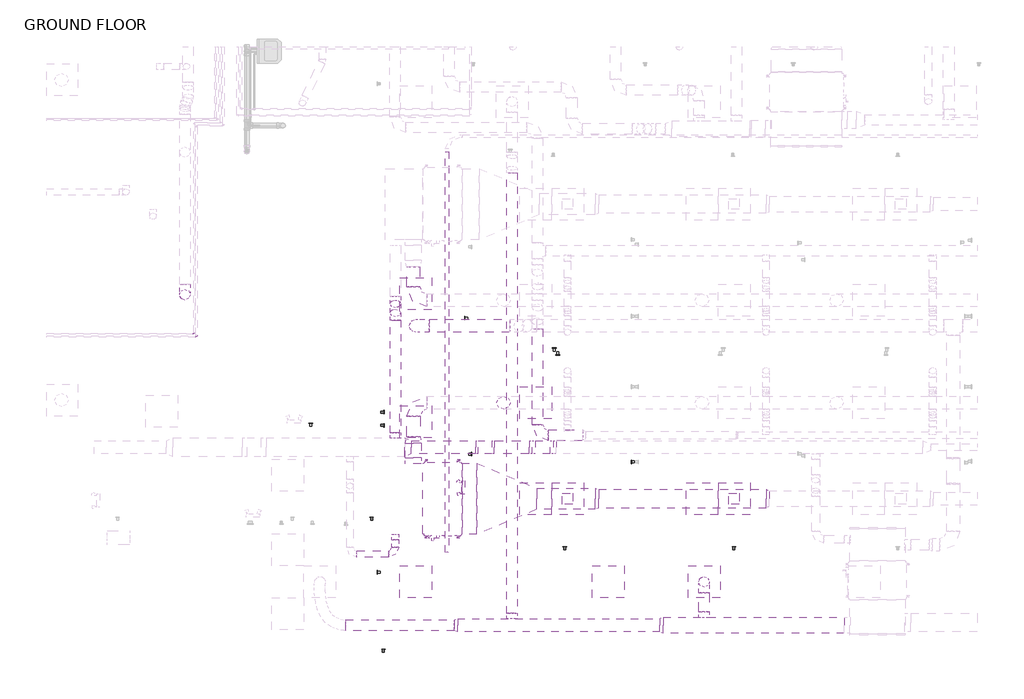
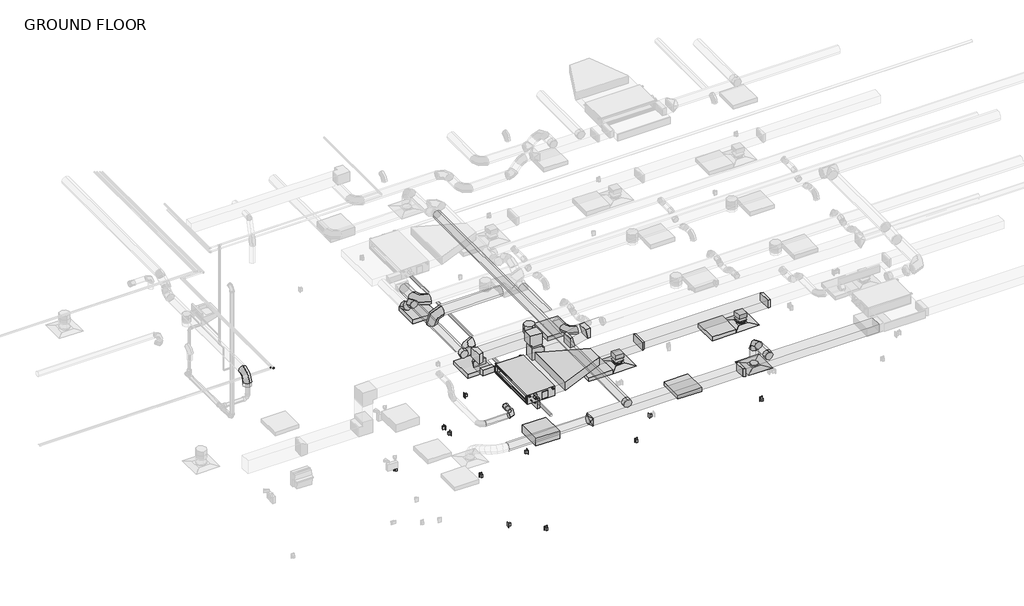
# One storey, part 2 of 22: 30 duct fittings, 27 duct segments, 8 light fixtures, 7 switching devices, 6 proxies, 3 air terminals, 2 pipe fittings, 1 cable carrier segment, 1 electric appliance.
"""IFC4 building model written with IfcOpenShell, lengths in millimetres."""

from ifc_helpers import new_model, si_unit, point, frame, frame_2d, origin, place, context, project, spatial, polyline, circle_curve, trimmed, segment, composite_curve, outline, extrude, transform, mapped, element, save
from components import air_terminal_e9020785, mechanical_equipment_d478180c, duplex_receptacle_countertop_10251bba, rectangular_elbow_mitered_transition_standard_35919474, rectangular_elbow_radius_1_5_w_4707421c, rectangular_takeoff_standard_d07ea574, rectangular_takeoff_standard_fde45e03, rectangular_transition_angle_45_degree_e4fa7590, rectangular_transition_angle_45_degree_1d311e81, rectangular_transition_angle_45_degree_791ae252, rectangular_transition_angle_45_degree_a1440fe9, rectangular_transition_angle_45_degree_05e1d5e5, rectangular_to_round_transition_angle_45_degree_e9430680, rectangular_to_round_transition_angle_45_degree_5a025447, rectangular_to_round_transition_angle_45_degree_789dc1ad, round_elbow_1_d_a253342a, round_elbow_1_d_6fec3262, round_elbow_1_d_c80420c1, round_elbow_1_d_ab3aa7ba, round_takeoff_standard_d3b0d0f9, round_takeoff_standard_fb854549, round_takeoff_standard_c5a1f659, telephone_outlet_data_plain_18c24199, emergency_wall_light_120v_37438f40, troffer_corner_insert_2x2_3_lamp_emergency_29e3a813, troffer_corner_insert_2x2_3lamp_e67c7f8f, elbow_generic_standard_c06ac706, elbow_generic_standard_a088f956

model = new_model("IFC4")

# Units and contexts
model_context = context("Model", 3, world=origin())
ifc_project = project(units=[si_unit("LENGTHUNIT", "METRE", prefix="MILLI")], contexts=[model_context])

# Site, building, storey
site = spatial("IfcSite", under=ifc_project)
building = spatial("IfcBuilding", under=site)
storey = spatial("IfcBuildingStorey", under=building, Name="GROUND FLOOR", Elevation=30480.0)

# Air terminals
placement = place(None, origin())
air_terminal_shape = air_terminal_e9020785(model_context)
element("IfcAirTerminal", 1, ObjectType="Supply Diffuser - Rectangular Face Round Neck - Hosted : 24\"x24\" Face 8\" Neck - Hosted", at=placement, inside=storey, context=model_context, shape_type="MappedRepresentation", body=[
    mapped(air_terminal_shape, transform((-3970.9704607, -4228.1054995, 33223.2), x_axis=(0.0, -1.0, 0.0), y_axis=(-1.0, 0.0, 0.0), z_axis=(0.0, 0.0, -1.0))),
])
element("IfcAirTerminal", 2, ObjectType="Supply Diffuser - Rectangular Face Round Neck - Hosted : 24\"x24\" Face 8\" Neck - Hosted", at=placement, inside=storey, context=model_context, shape_type="MappedRepresentation", body=[
    mapped(air_terminal_shape, transform((-799.1454607, -4228.1054995, 33223.2), x_axis=(0.0, -1.0, 0.0), y_axis=(-1.0, 0.0, 0.0), z_axis=(0.0, 0.0, -1.0))),
])
element("IfcAirTerminal", 3, ObjectType="Supply Diffuser - Rectangular Face Round Neck - Hosted : 24\"x24\" Face 8\" Neck - Hosted", at=placement, inside=storey, context=model_context, shape_type="MappedRepresentation", body=[
    mapped(air_terminal_shape, transform((-1370.6454607, -5809.2554995, 33223.2), x_axis=(0.0, -1.0, 0.0), y_axis=(-1.0, 0.0, 0.0), z_axis=(0.0, 0.0, -1.0))),
])

# Proxies
mechanical_equipment_shape = mechanical_equipment_d478180c(model_context)
element("IfcBuildingElementProxy", 4, Name="PEFY-P-NMAU-E_Medium_Static_Ducted : PEFY-P36NMAU-E", ObjectType="PEFY-P-NMAU-E_Medium_Static_Ducted : PEFY-P36NMAU-E", at=placement, inside=storey, context=model_context, shape_type="MappedRepresentation", body=[
    mapped(mechanical_equipment_shape, transform((-6407.5018914, -4238.1177424, 33458.15), x_axis=(0.0, -1.0, 0.0), y_axis=(1.0, 0.0, 0.0), z_axis=(0.0, 0.0, 1.0))),
])
duplex_receptacle_countertop_shape = duplex_receptacle_countertop_10251bba(model_context)
element("IfcBuildingElementProxy", 5, Name="Duplex Receptacle : Standard", ObjectType="Duplex Receptacle : Standard", at=placement, inside=storey, context=model_context, shape_type="MappedRepresentation", body=[
    mapped(duplex_receptacle_countertop_shape, transform((-5799.7704607, -3377.6052402, 30937.2), x_axis=(0.0, 1.0, 0.0), y_axis=(0.0, 0.0, 1.0), z_axis=(1.0, 0.0, 0.0))),
])
element("IfcBuildingElementProxy", 6, Name="Duplex Receptacle : Standard", ObjectType="Duplex Receptacle : Standard", at=placement, inside=storey, context=model_context, shape_type="MappedRepresentation", body=[
    mapped(duplex_receptacle_countertop_shape, transform((-4158.8399036, -1484.9054995, 30937.2), x_axis=(1.0, 0.0, 0.0), y_axis=(0.0, 0.0, 1.0), z_axis=(0.0, -1.0, 0.0))),
])
element("IfcBuildingElementProxy", 7, Name="Duplex Receptacle : Standard", ObjectType="Duplex Receptacle : Standard", at=placement, inside=storey, context=model_context, shape_type="MappedRepresentation", body=[
    mapped(duplex_receptacle_countertop_shape, transform((-4224.9569269, -1361.0804995, 30937.2), x_axis=(-1.0, 0.0, 0.0), y_axis=(0.0, 0.0, 1.0), z_axis=(0.0, 1.0, 0.0))),
])
element("IfcBuildingElementProxy", 8, Name="Duplex Receptacle : Standard", ObjectType="Duplex Receptacle : Standard", at=placement, inside=storey, context=model_context, shape_type="MappedRepresentation", body=[
    mapped(duplex_receptacle_countertop_shape, transform((-5923.5954607, -788.0218283, 30937.2), x_axis=(0.0, -1.0, 0.0), y_axis=(0.0, 0.0, 1.0), z_axis=(-1.0, 0.0, 0.0))),
])
element("IfcBuildingElementProxy", 9, Name="Duplex Receptacle : Standard", ObjectType="Duplex Receptacle : Standard", at=placement, inside=storey, context=model_context, shape_type="MappedRepresentation", body=[
    mapped(duplex_receptacle_countertop_shape, transform((-7593.6454607, -5626.3898416, 30937.2), x_axis=(0.0, -1.0, 0.0), y_axis=(0.0, 0.0, 1.0), z_axis=(-1.0, 0.0, 0.0))),
])

# Cable carrier segment
element("IfcCableCarrierSegment", 10, ObjectType="Rigid Nonmetallic Conduit (RNC Sch 40)", at=placement, inside=storey, context=model_context, shape_type="SweptSolid", body=[
    extrude(outline(composite_curve([segment(trimmed(circle_curve(frame_2d((33223.2, -6265.5970534)), 30.1625), [point((33223.2, -6295.7595534))], [point((33193.0375, -6265.5970534))], False, "CARTESIAN"), True, "CONTINUOUS"), segment(trimmed(circle_curve(frame_2d((33223.2, -6265.5970534)), 30.1625), [point((33193.0375, -6265.5970534))], [point((33223.2, -6235.4345534))], False, "CARTESIAN"), True, "CONTINUOUS"), segment(trimmed(circle_curve(frame_2d((33223.2, -6265.5970534)), 30.1625), [point((33223.2, -6235.4345534))], [point((33253.3625, -6265.5970534))], False, "CARTESIAN"), True, "CONTINUOUS"), segment(trimmed(circle_curve(frame_2d((33223.2, -6265.5970534)), 30.1625), [point((33253.3625, -6265.5970534))], [point((33223.2, -6295.7595534))], False, "CARTESIAN"), True, "CONTINUOUS")], self_intersect=False)), frame((0.0, -5250.0888338, 0.0), z_axis=(0.0, 1.0, 0.0), x_axis=(0.0, 0.0, 1.0)), (0.0, 0.0, 1.0), 7632.7),
])

# Duct fittings
rectangular_elbow_mitered_transition_standard_shape = rectangular_elbow_mitered_transition_standard_35919474(model_context)
element("IfcDuctFitting", 11, ObjectType="Rectangular Elbow - Mitered - Transition : Standard", at=placement, inside=storey, context=model_context, shape_type="MappedRepresentation", body=[
    mapped(rectangular_elbow_mitered_transition_standard_shape, transform((-5543.944811, -3245.6216457, 33909.0), x_axis=(1.0, 0.0, 0.0), y_axis=(0.0, 0.0, -1.0), z_axis=(0.0, 1.0, 0.0))),
])
element("IfcDuctFitting", 12, ObjectType="Rectangular Elbow - Mitered - Transition : Standard", at=placement, inside=storey, context=model_context, shape_type="MappedRepresentation", body=[
    mapped(rectangular_elbow_mitered_transition_standard_shape, transform((-5543.944811, -3245.6216457, 33502.6), x_axis=(-1.0, 0.0, 0.0), y_axis=(0.0, 0.0, 1.0), z_axis=(0.0, 1.0, 0.0))),
])
rectangular_elbow_radius_1_5_w_shape = rectangular_elbow_radius_1_5_w_4707421c(model_context)
element("IfcDuctFitting", 13, ObjectType="Rectangular Elbow - Radius : 1.5 W", at=placement, inside=storey, context=model_context, shape_type="MappedRepresentation", body=[
    mapped(rectangular_elbow_radius_1_5_w_shape, transform((-4654.944811, -3245.6216457, 33502.6), x_axis=(1.0, 0.0, 0.0), y_axis=(0.0, 0.0, 1.0), z_axis=(0.0, -1.0, 0.0))),
])
element("IfcDuctFitting", 14, ObjectType="Rectangular Elbow - Radius : 1.5 W", at=placement, inside=storey, context=model_context, shape_type="MappedRepresentation", body=[
    mapped(rectangular_elbow_radius_1_5_w_shape, transform((-4228.8077618, -3245.6216457, 33602.867541), x_axis=(-1.0, 0.0, 0.0), y_axis=(0.0, 0.0, -1.0), z_axis=(0.0, -1.0, 0.0))),
])
rectangular_takeoff_standard_shape = rectangular_takeoff_standard_d07ea574(model_context)
element("IfcDuctFitting", 15, ObjectType="Rectangular Takeoff : Standard", at=placement, inside=storey, context=model_context, shape_type="MappedRepresentation", body=[
    mapped(rectangular_takeoff_standard_shape, transform((-799.1454607, -4228.1054995, 33502.6), x_axis=(0.0, 0.0, -1.0), y_axis=(1.0, 0.0, 0.0), z_axis=(0.0, -1.0, 0.0))),
])
element("IfcDuctFitting", 16, ObjectType="Rectangular Takeoff : Standard", at=placement, inside=storey, context=model_context, shape_type="MappedRepresentation", body=[
    mapped(rectangular_takeoff_standard_shape, transform((-3970.9704607, -4228.1054995, 33502.6), x_axis=(0.0, 0.0, -1.0), y_axis=(1.0, 0.0, 0.0), z_axis=(0.0, -1.0, 0.0))),
])
rectangular_takeoff_standard_2_shape = rectangular_takeoff_standard_fde45e03(model_context)
element("IfcDuctFitting", 17, ObjectType="Rectangular Takeoff : Standard", at=placement, inside=storey, context=model_context, shape_type="MappedRepresentation", body=[
    mapped(rectangular_takeoff_standard_2_shape, transform((-6905.278652, -3550.2429995, 33617.69375), x_axis=(0.0, 1.0, 0.0), y_axis=(-1.0, 0.0, 0.0), z_axis=(0.0, 0.0, 1.0))),
])
rectangular_transition_angle_45_degree_shape = rectangular_transition_angle_45_degree_e4fa7590(model_context)
element("IfcDuctFitting", 18, ObjectType="Rectangular Transition - Angle : 45 Degree", at=placement, inside=storey, context=model_context, shape_type="MappedRepresentation", body=[
    mapped(rectangular_transition_angle_45_degree_shape, transform((-6945.302762, -3245.6216457, 33909.0), x_axis=(-1.0, 0.0, 0.0), y_axis=(0.0, -1.0, 0.0), z_axis=(0.0, 0.0, 1.0))),
])
rectangular_transition_angle_45_degree_2_shape = rectangular_transition_angle_45_degree_1d311e81(model_context)
element("IfcDuctFitting", 19, ObjectType="Rectangular Transition - Angle : 45 Degree", at=placement, inside=storey, context=model_context, shape_type="MappedRepresentation", body=[
    mapped(rectangular_transition_angle_45_degree_2_shape, transform((-2152.8792966, -6635.2850038, 33877.25), x_axis=(-1.0, 0.0, 0.0), y_axis=(0.0, -1.0, 0.0), z_axis=(0.0, 0.0, 1.0))),
])
rectangular_transition_angle_45_degree_3_shape = rectangular_transition_angle_45_degree_791ae252(model_context)
element("IfcDuctFitting", 20, ObjectType="Rectangular Transition - Angle : 45 Degree", at=placement, inside=storey, context=model_context, shape_type="MappedRepresentation", body=[
    mapped(rectangular_transition_angle_45_degree_3_shape, transform((-3441.5200089, -4228.1054995, 33604.2), x_axis=(1.0, 0.0, 0.0), y_axis=(0.0, 1.0, 0.0), z_axis=(0.0, 0.0, 1.0))),
])
rectangular_transition_angle_45_degree_4_shape = rectangular_transition_angle_45_degree_a1440fe9(model_context)
element("IfcDuctFitting", 21, ObjectType="Rectangular Transition - Angle : 45 Degree", at=placement, inside=storey, context=model_context, shape_type="MappedRepresentation", body=[
    mapped(rectangular_transition_angle_45_degree_4_shape, transform((-189.5454607, -4228.1054995, 33604.2), x_axis=(1.0, 0.0, 0.0), y_axis=(0.0, 1.0, 0.0), z_axis=(0.0, 0.0, 1.0))),
])
rectangular_transition_angle_45_degree_5_shape = rectangular_transition_angle_45_degree_05e1d5e5(model_context)
element("IfcDuctFitting", 22, ObjectType="Rectangular Transition - Angle : 45 Degree", at=placement, inside=storey, context=model_context, shape_type="MappedRepresentation", body=[
    mapped(rectangular_transition_angle_45_degree_5_shape, transform((-4556.1833638, -4228.1054995, 33604.2), x_axis=(-1.0, 0.0, 0.0), y_axis=(0.0, -1.0, 0.0), z_axis=(0.0, 0.0, 1.0))),
])
rectangular_to_round_transition_angle_45_degree_shape = rectangular_to_round_transition_angle_45_degree_e9430680(model_context)
element("IfcDuctFitting", 23, ObjectType="Rectangular to Round Transition - Angle : 45 Degree", at=placement, inside=storey, context=model_context, shape_type="MappedRepresentation", body=[
    mapped(rectangular_to_round_transition_angle_45_degree_shape, transform((-6064.4792966, -6635.2850038, 33877.25), x_axis=(-1.0, 0.0, 0.0), y_axis=(0.0, -1.0, 0.0), z_axis=(0.0, 0.0, 1.0))),
])
rectangular_to_round_transition_angle_45_degree_2_shape = rectangular_to_round_transition_angle_45_degree_5a025447(model_context)
element("IfcDuctFitting", 24, ObjectType="Rectangular to Round Transition - Angle : 45 Degree", at=placement, inside=storey, context=model_context, shape_type="MappedRepresentation", body=[
    mapped(rectangular_to_round_transition_angle_45_degree_2_shape, transform((-799.1454607, -4228.1054995, 33327.975), x_axis=(0.0, 0.0, -1.0), y_axis=(1.0, 0.0, 0.0), z_axis=(0.0, -1.0, 0.0))),
])
element("IfcDuctFitting", 25, ObjectType="Rectangular to Round Transition - Angle : 45 Degree", at=placement, inside=storey, context=model_context, shape_type="MappedRepresentation", body=[
    mapped(rectangular_to_round_transition_angle_45_degree_2_shape, transform((-3970.9704607, -4228.1054995, 33327.975), x_axis=(0.0, 0.0, -1.0), y_axis=(1.0, 0.0, 0.0), z_axis=(0.0, -1.0, 0.0))),
])
rectangular_to_round_transition_angle_45_degree_3_shape = rectangular_to_round_transition_angle_45_degree_789dc1ad(model_context)
element("IfcDuctFitting", 26, ObjectType="Rectangular to Round Transition - Angle : 45 Degree", at=placement, inside=storey, context=model_context, shape_type="MappedRepresentation", body=[
    mapped(rectangular_to_round_transition_angle_45_degree_3_shape, transform((-6905.278652, -3169.2429995, 33617.69375), x_axis=(0.0, 1.0, 0.0), y_axis=(-1.0, 0.0, 0.0), z_axis=(0.0, 0.0, 1.0))),
])
round_elbow_1_d_shape = round_elbow_1_d_a253342a(model_context)
element("IfcDuctFitting", 27, ObjectType="Round Elbow : 1 D", at=placement, inside=storey, context=model_context, shape_type="MappedRepresentation", body=[
    mapped(round_elbow_1_d_shape, transform((-11256.8513201, -341.9054995, 33121.6), x_axis=(0.0, -1.0, 0.0), y_axis=(0.0, 0.0, -1.0), z_axis=(1.0, 0.0, 0.0))),
])
element("IfcDuctFitting", 28, ObjectType="Round Elbow : 1 D", at=placement, inside=storey, context=model_context, shape_type="MappedRepresentation", body=[
    mapped(round_elbow_1_d_shape, transform((-4541.976464, -3019.0145579, 33528.0), x_axis=(0.0, -1.0, 0.0), y_axis=(1.0, 0.0, 0.0), z_axis=(0.0, 0.0, 1.0))),
])
element("IfcDuctFitting", 29, ObjectType="Round Elbow : 1 D", at=placement, inside=storey, context=model_context, shape_type="MappedRepresentation", body=[
    mapped(round_elbow_1_d_shape, transform((-1370.6454607, -5809.2554995, 33877.25), x_axis=(0.0, 0.0, 1.0), y_axis=(0.0, -1.0, 0.0), z_axis=(1.0, 0.0, 0.0))),
])
round_elbow_1_d_2_shape = round_elbow_1_d_6fec3262(model_context)
element("IfcDuctFitting", 30, ObjectType="Round Elbow : 1 D", at=placement, inside=storey, context=model_context, shape_type="MappedRepresentation", body=[
    mapped(round_elbow_1_d_2_shape, transform((-6857.0454607, -932.4554995, 33578.8), x_axis=(0.0, 0.0, 1.0), y_axis=(1.0, 0.0, 0.0), z_axis=(0.0, 1.0, 0.0))),
])
element("IfcDuctFitting", 31, ObjectType="Round Elbow : 1 D", at=placement, inside=storey, context=model_context, shape_type="MappedRepresentation", body=[
    mapped(round_elbow_1_d_2_shape, transform((-6905.278652, -2399.3054995, 33617.69375), x_axis=(-1.0, 0.0, 0.0), y_axis=(0.0, -1.0, 0.0), z_axis=(0.0, 0.0, 1.0))),
])
element("IfcDuctFitting", 32, ObjectType="Round Elbow : 1 D", at=placement, inside=storey, context=model_context, shape_type="MappedRepresentation", body=[
    mapped(round_elbow_1_d_2_shape, transform((-6907.4143044, -446.6804995, 33617.69375), x_axis=(0.0, -1.0, 0.0), y_axis=(1.0, 0.0, 0.0), z_axis=(0.0, 0.0, 1.0))),
])
round_elbow_1_d_3_shape = round_elbow_1_d_c80420c1(model_context)
element("IfcDuctFitting", 33, ObjectType="Round Elbow : 1 D", at=placement, inside=storey, context=model_context, shape_type="MappedRepresentation", body=[
    mapped(round_elbow_1_d_3_shape, transform((-7251.3950198, -5277.6216457, 33617.69375), x_axis=(1.0, 0.0, 0.0), y_axis=(0.0, 1.0, 0.0), z_axis=(0.0, 0.0, 1.0))),
])
round_elbow_1_d_4_shape = round_elbow_1_d_ab3aa7ba(model_context)
element("IfcDuctFitting", 34, ObjectType="Round Elbow : 1 D", at=placement, inside=storey, context=model_context, shape_type="MappedRepresentation", body=[
    mapped(round_elbow_1_d_4_shape, transform((-7247.6134283, -456.5972917, 33617.69375), x_axis=(0.0, -1.0, 0.0), y_axis=(0.0, 0.0, 1.0), z_axis=(-1.0, 0.0, 0.0))),
])
element("IfcDuctFitting", 35, ObjectType="Round Elbow : 1 D", at=placement, inside=storey, context=model_context, shape_type="MappedRepresentation", body=[
    mapped(round_elbow_1_d_4_shape, transform((-7247.6134283, -747.9035417, 33909.0), x_axis=(0.0, -0.7071067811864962, 0.7071067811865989), y_axis=(0.0, -0.7071067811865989, -0.7071067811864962), z_axis=(1.0, 0.0, 0.0))),
])
round_takeoff_standard_shape = round_takeoff_standard_d3b0d0f9(model_context)
element("IfcDuctFitting", 36, ObjectType="Round Takeoff : Standard", at=placement, inside=storey, context=model_context, shape_type="MappedRepresentation", body=[
    mapped(round_takeoff_standard_shape, transform((-7247.6134283, -3067.8216457, 33909.0), x_axis=(0.0, 1.0, 0.0), y_axis=(1.0, 0.0, 0.0), z_axis=(0.0, 0.0, -1.0))),
])
element("IfcDuctFitting", 37, ObjectType="Round Takeoff : Standard", at=placement, inside=storey, context=model_context, shape_type="MappedRepresentation", body=[
    mapped(round_takeoff_standard_shape, transform((-1370.6454607, -6482.8850038, 33877.25), x_axis=(0.0, 1.0, 0.0), y_axis=(1.0, 0.0, 0.0), z_axis=(0.0, 0.0, -1.0))),
])
element("IfcDuctFitting", 38, ObjectType="Round Takeoff : Standard", at=placement, inside=storey, context=model_context, shape_type="MappedRepresentation", body=[
    mapped(round_takeoff_standard_shape, transform((-5028.2454607, -6508.2850038, 33877.25), x_axis=(0.0, 1.0, 0.0), y_axis=(1.0, 0.0, 0.0), z_axis=(0.0, 0.0, -1.0))),
])
round_takeoff_standard_2_shape = round_takeoff_standard_fb854549(model_context)
element("IfcDuctFitting", 39, ObjectType="Round Takeoff : Standard", at=placement, inside=storey, context=model_context, shape_type="MappedRepresentation", body=[
    mapped(round_takeoff_standard_2_shape, transform((-7251.3950198, -4905.9679995, 33617.69375), x_axis=(0.0, -1.0, 0.0), y_axis=(-1.0, 0.0, 0.0), z_axis=(0.0, 0.0, -1.0))),
])
round_takeoff_standard_3_shape = round_takeoff_standard_c5a1f659(model_context)
element("IfcDuctFitting", 40, ObjectType="Round Takeoff : Standard", at=placement, inside=storey, context=model_context, shape_type="MappedRepresentation", body=[
    mapped(round_takeoff_standard_3_shape, transform((-5190.1704607, -2399.3054995, 33490.69375), x_axis=(0.0, 0.0, -1.0), y_axis=(-1.0, 0.0, 0.0), z_axis=(0.0, 1.0, 0.0))),
])

# Duct segments
element("IfcDuctSegment", 41, ObjectType="Mitered Elbows / Taps", at=placement, inside=storey, context=model_context, shape_type="SweptSolid", body=[
    extrude(outline(polyline([(1301.5207034, -6482.8850038), (1301.5207034, -6787.6850038), (-2152.8792966, -6787.6850038), (-2152.8792966, -6482.8850038), (1301.5207034, -6482.8850038)])), frame((0.0, 0.0, 33775.65), z_axis=(0.0, 0.0, 1.0), x_axis=(1.0, 0.0, 0.0)), (0.0, 0.0, 1.0), 203.2),
])
element("IfcDuctSegment", 42, ObjectType="Mitered Elbows / Taps", at=placement, inside=storey, context=model_context, shape_type="SweptSolid", body=[
    extrude(outline(polyline([(-2214.200321, -6508.2850038), (-2214.200321, -6762.2850038), (-6064.4792966, -6762.2850038), (-6064.4792966, -6508.2850038), (-2214.200321, -6508.2850038)])), frame((0.0, 0.0, 33775.65), z_axis=(0.0, 0.0, 1.0), x_axis=(1.0, 0.0, 0.0)), (0.0, 0.0, 1.0), 203.2),
])
element("IfcDuctSegment", 43, ObjectType="Mitered Elbows / Taps", at=placement, inside=storey, context=model_context, shape_type="SweptSolid", body=[
    extrude(outline(polyline([(-3380.1989844, -4405.9054995), (-3380.1989844, -4050.3054995), (-189.5454607, -4050.3054995), (-189.5454607, -4405.9054995), (-3380.1989844, -4405.9054995)])), frame((0.0, 0.0, 33502.6), z_axis=(0.0, 0.0, 1.0), x_axis=(1.0, 0.0, 0.0)), (0.0, 0.0, 1.0), 203.2),
])
element("IfcDuctSegment", 44, ObjectType="Mitered Elbows / Taps", at=placement, inside=storey, context=model_context, shape_type="SweptSolid", body=[
    extrude(outline(polyline([(-5978.8768914, -4905.9679995), (-5978.8768914, -3550.2429995), (-5702.1200089, -3550.2429995), (-5702.1200089, -4905.9679995), (-5978.8768914, -4905.9679995)])), frame((0.0, 0.0, 33501.0125), z_axis=(0.0, 0.0, 1.0), x_axis=(1.0, 0.0, 0.0)), (0.0, 0.0, 1.0), 206.375),
])
element("IfcDuctSegment", 45, ObjectType="Mitered Elbows / Taps", at=placement, inside=storey, context=model_context, shape_type="SweptSolid", body=[
    extrude(outline(polyline([(-3441.5200089, -4024.9054995), (-3441.5200089, -4431.3054995), (-4556.1833638, -4431.3054995), (-4556.1833638, -4024.9054995), (-3441.5200089, -4024.9054995)])), frame((0.0, 0.0, 33502.6), z_axis=(0.0, 0.0, 1.0), x_axis=(1.0, 0.0, 0.0)), (0.0, 0.0, 1.0), 203.2),
])
element("IfcDuctSegment", 46, ObjectType="Mitered Elbows / Taps", at=placement, inside=storey, context=model_context, shape_type="SweptSolid", body=[
    extrude(outline(polyline([(-900.7454607, -4126.5054995), (-697.5454607, -4126.5054995), (-697.5454607, -4329.7054995), (-900.7454607, -4329.7054995), (-900.7454607, -4126.5054995)])), frame((0.0, 0.0, 33327.975), z_axis=(0.0, 0.0, 1.0), x_axis=(1.0, 0.0, 0.0)), (0.0, 0.0, 1.0), 73.025),
])
element("IfcDuctSegment", 47, ObjectType="Mitered Elbows / Taps", at=placement, inside=storey, context=model_context, shape_type="SweptSolid", body=[
    extrude(outline(polyline([(-4072.5704607, -4126.5054995), (-3869.3704607, -4126.5054995), (-3869.3704607, -4329.7054995), (-4072.5704607, -4329.7054995), (-4072.5704607, -4126.5054995)])), frame((0.0, 0.0, 33327.975), z_axis=(0.0, 0.0, 1.0), x_axis=(1.0, 0.0, 0.0)), (0.0, 0.0, 1.0), 73.025),
])
element("IfcDuctSegment", 48, ObjectType="Mitered Elbows / Taps", at=placement, inside=storey, context=model_context, shape_type="SweptSolid", body=[
    extrude(outline(polyline([(-6752.878652, -3448.6429995), (-7057.678652, -3448.6429995), (-7057.678652, -3169.2429995), (-6752.878652, -3169.2429995), (-6752.878652, -3448.6429995)])), frame((0.0, 0.0, 33541.49375), z_axis=(0.0, 0.0, 1.0), x_axis=(1.0, 0.0, 0.0)), (0.0, 0.0, 1.0), 152.4),
])
element("IfcDuctSegment", 49, ObjectType="Mitered Elbows / Taps", at=placement, inside=storey, context=model_context, shape_type="SweptSolid", body=[
    extrude(outline(polyline([(-5416.944811, -3372.6216457), (-5670.944811, -3372.6216457), (-5670.944811, -3118.6216457), (-5416.944811, -3118.6216457), (-5416.944811, -3372.6216457)])), frame((0.0, 0.0, 33680.4), z_axis=(0.0, 0.0, 1.0), x_axis=(1.0, 0.0, 0.0)), (0.0, 0.0, 1.0), 50.8),
])
element("IfcDuctSegment", 50, ObjectType="Mitered Elbows / Taps", at=placement, inside=storey, context=model_context, shape_type="SweptSolid", body=[
    extrude(outline(polyline([(-5721.744811, -3118.6216457), (-5721.744811, -3372.6216457), (-6945.302762, -3372.6216457), (-6945.302762, -3118.6216457), (-5721.744811, -3118.6216457)])), frame((0.0, 0.0, 33782.0), z_axis=(0.0, 0.0, 1.0), x_axis=(1.0, 0.0, 0.0)), (0.0, 0.0, 1.0), 254.0),
])
element("IfcDuctSegment", 51, ObjectType="Radius Elbows / Taps", at=placement, inside=storey, context=model_context, shape_type="SweptSolid", body=[
    extrude(outline(polyline([(-5366.144811, -3372.6216457), (-5366.144811, -3118.6216457), (-4699.164547, -3118.6216457), (-4699.164547, -3372.6216457), (-5366.144811, -3372.6216457)])), frame((0.0, 0.0, 33375.6), z_axis=(0.0, 0.0, 1.0), x_axis=(1.0, 0.0, 0.0)), (0.0, 0.0, 1.0), 254.0),
])
element("IfcDuctSegment", 52, ObjectType="Radius Elbows / Taps", at=placement, inside=storey, context=model_context, shape_type="SweptSolid", body=[
    extrude(outline(polyline([(0.0, -254.0), (0.0, 0.0), (349.3348585, 0.0), (349.3348585, -254.0), (0.0, -254.0)])), frame((-4582.8125654, -3118.6216457, 33389.1040785), z_axis=(-0.22903933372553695, 0.0, 0.9734171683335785), x_axis=(0.9734171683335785, 0.0, 0.22903933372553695)), (0.0, 0.0, 1.0), 254.0),
])
element("IfcDuctSegment", 53, ObjectType="Taps / Short Radius", at=placement, inside=storey, context=model_context, shape_type="SweptSolid", body=[
    extrude(outline(composite_curve([segment(trimmed(circle_curve(frame_2d((-6635.2850038, 33877.25)), 101.6), [point((-6533.6850038, 33877.25))], [point((-6635.2850038, 33775.65))], False, "CARTESIAN"), True, "CONTINUOUS"), segment(trimmed(circle_curve(frame_2d((-6635.2850038, 33877.25)), 101.6), [point((-6635.2850038, 33775.65))], [point((-6736.8850038, 33877.25))], False, "CARTESIAN"), True, "CONTINUOUS"), segment(trimmed(circle_curve(frame_2d((-6635.2850038, 33877.25)), 101.6), [point((-6736.8850038, 33877.25))], [point((-6635.2850038, 33978.85))], False, "CARTESIAN"), True, "CONTINUOUS"), segment(trimmed(circle_curve(frame_2d((-6635.2850038, 33877.25)), 101.6), [point((-6635.2850038, 33978.85))], [point((-6533.6850038, 33877.25))], False, "CARTESIAN"), True, "CONTINUOUS")], self_intersect=False)), frame((-8198.0792966, 0.0, 0.0), z_axis=(1.0, 0.0, 0.0), x_axis=(0.0, 1.0, 0.0)), (0.0, 0.0, 1.0), 2072.2789755),
])
element("IfcDuctSegment", 54, ObjectType="Taps / Short Radius", at=placement, inside=storey, context=model_context, shape_type="SweptSolid", body=[
    extrude(outline(composite_curve([segment(trimmed(circle_curve(frame_2d((-11256.8513201, -341.9054995)), 101.6), [point((-11155.2513201, -341.9054995))], [point((-11256.8513201, -443.5054995))], False, "CARTESIAN"), True, "CONTINUOUS"), segment(trimmed(circle_curve(frame_2d((-11256.8513201, -341.9054995)), 101.6), [point((-11256.8513201, -443.5054995))], [point((-11358.4513201, -341.9054995))], False, "CARTESIAN"), True, "CONTINUOUS"), segment(trimmed(circle_curve(frame_2d((-11256.8513201, -341.9054995)), 101.6), [point((-11358.4513201, -341.9054995))], [point((-11256.8513201, -240.3054995))], False, "CARTESIAN"), True, "CONTINUOUS"), segment(trimmed(circle_curve(frame_2d((-11256.8513201, -341.9054995)), 101.6), [point((-11256.8513201, -240.3054995))], [point((-11155.2513201, -341.9054995))], False, "CARTESIAN"), True, "CONTINUOUS")], self_intersect=False)), frame((0.0, 0.0, 32816.8), z_axis=(0.0, 0.0, 1.0), x_axis=(1.0, 0.0, 0.0)), (0.0, 0.0, 1.0), 101.6),
])
element("IfcDuctSegment", 55, ObjectType="Taps / Short Radius", at=placement, inside=storey, context=model_context, shape_type="SweptSolid", body=[
    extrude(outline(composite_curve([segment(trimmed(circle_curve(frame_2d((-932.4554995, 33578.8)), 127.0), [point((-805.4554995, 33578.8))], [point((-932.4554995, 33451.8))], False, "CARTESIAN"), True, "CONTINUOUS"), segment(trimmed(circle_curve(frame_2d((-932.4554995, 33578.8)), 127.0), [point((-932.4554995, 33451.8))], [point((-1059.4554995, 33578.8))], False, "CARTESIAN"), True, "CONTINUOUS"), segment(trimmed(circle_curve(frame_2d((-932.4554995, 33578.8)), 127.0), [point((-1059.4554995, 33578.8))], [point((-932.4554995, 33705.8))], False, "CARTESIAN"), True, "CONTINUOUS"), segment(trimmed(circle_curve(frame_2d((-932.4554995, 33578.8)), 127.0), [point((-932.4554995, 33705.8))], [point((-805.4554995, 33578.8))], False, "CARTESIAN"), True, "CONTINUOUS")], self_intersect=False)), frame((-6603.0454607, 0.0, 0.0), z_axis=(1.0, 0.0, 0.0), x_axis=(0.0, 1.0, 0.0)), (0.0, 0.0, 1.0), 1528.2153568),
])
element("IfcDuctSegment", 56, ObjectType="Taps / Short Radius", at=placement, inside=storey, context=model_context, shape_type="SweptSolid", body=[
    extrude(outline(composite_curve([segment(trimmed(circle_curve(frame_2d((33617.69375, -6905.278652)), 127.0), [point((33617.69375, -6778.278652))], [point((33744.69375, -6905.278652))], False, "CARTESIAN"), True, "CONTINUOUS"), segment(trimmed(circle_curve(frame_2d((33617.69375, -6905.278652)), 127.0), [point((33744.69375, -6905.278652))], [point((33617.69375, -7032.278652))], False, "CARTESIAN"), True, "CONTINUOUS"), segment(trimmed(circle_curve(frame_2d((33617.69375, -6905.278652)), 127.0), [point((33617.69375, -7032.278652))], [point((33490.69375, -6905.278652))], False, "CARTESIAN"), True, "CONTINUOUS"), segment(trimmed(circle_curve(frame_2d((33617.69375, -6905.278652)), 127.0), [point((33490.69375, -6905.278652))], [point((33617.69375, -6778.278652))], False, "CARTESIAN"), True, "CONTINUOUS")], self_intersect=False)), frame((0.0, -3046.6009505, 0.0), z_axis=(0.0, 1.0, 0.0), x_axis=(0.0, 0.0, 1.0)), (0.0, 0.0, 1.0), 393.295451),
])
element("IfcDuctSegment", 57, ObjectType="Taps / Short Radius", at=placement, inside=storey, context=model_context, shape_type="SweptSolid", body=[
    extrude(outline(composite_curve([segment(trimmed(circle_curve(frame_2d((-5190.1704607, -2399.3054995)), 127.0), [point((-5317.1704607, -2399.3054995))], [point((-5190.1704607, -2272.3054995))], False, "CARTESIAN"), True, "CONTINUOUS"), segment(trimmed(circle_curve(frame_2d((-5190.1704607, -2399.3054995)), 127.0), [point((-5190.1704607, -2272.3054995))], [point((-5063.1704607, -2399.3054995))], False, "CARTESIAN"), True, "CONTINUOUS"), segment(trimmed(circle_curve(frame_2d((-5190.1704607, -2399.3054995)), 127.0), [point((-5063.1704607, -2399.3054995))], [point((-5190.1704607, -2526.3054995))], False, "CARTESIAN"), True, "CONTINUOUS"), segment(trimmed(circle_curve(frame_2d((-5190.1704607, -2399.3054995)), 127.0), [point((-5190.1704607, -2526.3054995))], [point((-5317.1704607, -2399.3054995))], False, "CARTESIAN"), True, "CONTINUOUS")], self_intersect=False)), frame((0.0, 0.0, 33324.8), z_axis=(0.0, 0.0, 1.0), x_axis=(1.0, 0.0, 0.0)), (0.0, 0.0, 1.0), 64.29375),
])
element("IfcDuctSegment", 58, ObjectType="Taps / Short Radius", at=placement, inside=storey, context=model_context, shape_type="SweptSolid", body=[
    extrude(outline(composite_curve([segment(trimmed(circle_curve(frame_2d((33617.69375, -6907.4143044)), 127.0), [point((33617.69375, -7034.4143044))], [point((33490.69375, -6907.4143044))], False, "CARTESIAN"), True, "CONTINUOUS"), segment(trimmed(circle_curve(frame_2d((33617.69375, -6907.4143044)), 127.0), [point((33490.69375, -6907.4143044))], [point((33617.69375, -6780.4143044))], False, "CARTESIAN"), True, "CONTINUOUS"), segment(trimmed(circle_curve(frame_2d((33617.69375, -6907.4143044)), 127.0), [point((33617.69375, -6780.4143044))], [point((33744.69375, -6907.4143044))], False, "CARTESIAN"), True, "CONTINUOUS"), segment(trimmed(circle_curve(frame_2d((33617.69375, -6907.4143044)), 127.0), [point((33744.69375, -6907.4143044))], [point((33617.69375, -7034.4143044))], False, "CARTESIAN"), True, "CONTINUOUS")], self_intersect=False)), frame((0.0, -192.6804995, 0.0), z_axis=(0.0, 1.0, 0.0), x_axis=(0.0, 0.0, 1.0)), (0.0, 0.0, 1.0), 385.357951),
])
element("IfcDuctSegment", 59, ObjectType="Taps / Short Radius", at=placement, inside=storey, context=model_context, shape_type="SweptSolid", body=[
    extrude(outline(composite_curve([segment(trimmed(circle_curve(frame_2d((0.0, 101.6)), 101.6), [point((-101.6, 101.6))], [point((0.0, 203.2))], False, "CARTESIAN"), True, "CONTINUOUS"), segment(trimmed(circle_curve(frame_2d((0.0, 101.6)), 101.6), [point((0.0, 203.2))], [point((101.6, 101.6))], False, "CARTESIAN"), True, "CONTINUOUS"), segment(trimmed(circle_curve(frame_2d((0.0, 101.6)), 101.6), [point((101.6, 101.6))], [point((0.0, 0.0))], False, "CARTESIAN"), True, "CONTINUOUS"), segment(trimmed(circle_curve(frame_2d((0.0, 101.6)), 101.6), [point((0.0, 0.0))], [point((-101.6, 101.6))], False, "CARTESIAN"), True, "CONTINUOUS")], self_intersect=False)), frame((-7247.6134283, -587.9552428, 33605.3676031), z_axis=(0.0, -0.7071067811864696, 0.7071067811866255), x_axis=(1.0, 0.0, 0.0)), (0.0, 0.0, 1.0), 243.6328578),
])
element("IfcDuctSegment", 60, ObjectType="Taps / Short Radius", at=placement, inside=storey, context=model_context, shape_type="SweptSolid", body=[
    extrude(outline(composite_curve([segment(trimmed(circle_curve(frame_2d((33909.0, -7247.6134283)), 101.6), [point((33909.0, -7146.0134283))], [point((34010.6, -7247.6134283))], False, "CARTESIAN"), True, "CONTINUOUS"), segment(trimmed(circle_curve(frame_2d((33909.0, -7247.6134283)), 101.6), [point((34010.6, -7247.6134283))], [point((33909.0, -7349.2134283))], False, "CARTESIAN"), True, "CONTINUOUS"), segment(trimmed(circle_curve(frame_2d((33909.0, -7247.6134283)), 101.6), [point((33909.0, -7349.2134283))], [point((33807.4, -7247.6134283))], False, "CARTESIAN"), True, "CONTINUOUS"), segment(trimmed(circle_curve(frame_2d((33909.0, -7247.6134283)), 101.6), [point((33807.4, -7247.6134283))], [point((33909.0, -7146.0134283))], False, "CARTESIAN"), True, "CONTINUOUS")], self_intersect=False)), frame((0.0, -2966.2216457, 0.0), z_axis=(0.0, 1.0, 0.0), x_axis=(0.0, 0.0, 1.0)), (0.0, 0.0, 1.0), 2134.1499081),
])
element("IfcDuctSegment", 61, ObjectType="Taps / Short Radius", at=placement, inside=storey, context=model_context, shape_type="SweptSolid", body=[
    extrude(outline(composite_curve([segment(trimmed(circle_curve(frame_2d((-3019.0145579, 33528.0)), 101.6), [point((-2917.4145579, 33528.0))], [point((-3019.0145579, 33426.4))], False, "CARTESIAN"), True, "CONTINUOUS"), segment(trimmed(circle_curve(frame_2d((-3019.0145579, 33528.0)), 101.6), [point((-3019.0145579, 33426.4))], [point((-3120.6145579, 33528.0))], False, "CARTESIAN"), True, "CONTINUOUS"), segment(trimmed(circle_curve(frame_2d((-3019.0145579, 33528.0)), 101.6), [point((-3120.6145579, 33528.0))], [point((-3019.0145579, 33629.6))], False, "CARTESIAN"), True, "CONTINUOUS"), segment(trimmed(circle_curve(frame_2d((-3019.0145579, 33528.0)), 101.6), [point((-3019.0145579, 33629.6))], [point((-2917.4145579, 33528.0))], False, "CARTESIAN"), True, "CONTINUOUS")], self_intersect=False)), frame((-4338.776464, 0.0, 0.0), z_axis=(1.0, 0.0, 0.0), x_axis=(0.0, 1.0, 0.0)), (0.0, 0.0, 1.0), 656.8980542),
])
element("IfcDuctSegment", 62, ObjectType="Taps / Short Radius", at=placement, inside=storey, context=model_context, shape_type="SweptSolid", body=[
    extrude(outline(composite_curve([segment(trimmed(circle_curve(frame_2d((33528.0, -4541.976464)), 101.6), [point((33528.0, -4440.376464))], [point((33629.6, -4541.976464))], False, "CARTESIAN"), True, "CONTINUOUS"), segment(trimmed(circle_curve(frame_2d((33528.0, -4541.976464)), 101.6), [point((33629.6, -4541.976464))], [point((33528.0, -4643.576464))], False, "CARTESIAN"), True, "CONTINUOUS"), segment(trimmed(circle_curve(frame_2d((33528.0, -4541.976464)), 101.6), [point((33528.0, -4643.576464))], [point((33426.4, -4541.976464))], False, "CARTESIAN"), True, "CONTINUOUS"), segment(trimmed(circle_curve(frame_2d((33528.0, -4541.976464)), 101.6), [point((33426.4, -4541.976464))], [point((33528.0, -4440.376464))], False, "CARTESIAN"), True, "CONTINUOUS")], self_intersect=False)), frame((0.0, -2815.8145579, 0.0), z_axis=(0.0, 1.0, 0.0), x_axis=(0.0, 0.0, 1.0)), (0.0, 0.0, 1.0), 1821.8232036),
])
element("IfcDuctSegment", 63, ObjectType="Taps / Short Radius", at=placement, inside=storey, context=model_context, shape_type="SweptSolid", body=[
    extrude(outline(composite_curve([segment(trimmed(circle_curve(frame_2d((33877.25, -5028.2454607)), 101.6), [point((33877.25, -5129.8454607))], [point((33775.65, -5028.2454607))], False, "CARTESIAN"), True, "CONTINUOUS"), segment(trimmed(circle_curve(frame_2d((33877.25, -5028.2454607)), 101.6), [point((33775.65, -5028.2454607))], [point((33877.25, -4926.6454607))], False, "CARTESIAN"), True, "CONTINUOUS"), segment(trimmed(circle_curve(frame_2d((33877.25, -5028.2454607)), 101.6), [point((33877.25, -4926.6454607))], [point((33978.85, -5028.2454607))], False, "CARTESIAN"), True, "CONTINUOUS"), segment(trimmed(circle_curve(frame_2d((33877.25, -5028.2454607)), 101.6), [point((33978.85, -5028.2454607))], [point((33877.25, -5129.8454607))], False, "CARTESIAN"), True, "CONTINUOUS")], self_intersect=False)), frame((0.0, -6406.6850038, 0.0), z_axis=(0.0, 1.0, 0.0), x_axis=(0.0, 0.0, 1.0)), (0.0, 0.0, 1.0), 8389.3197895),
])
element("IfcDuctSegment", 64, ObjectType="Taps / Short Radius", at=placement, inside=storey, context=model_context, shape_type="SweptSolid", body=[
    extrude(outline(composite_curve([segment(trimmed(circle_curve(frame_2d((33877.25, -1370.6454607)), 101.6), [point((33877.25, -1472.2454607))], [point((33775.65, -1370.6454607))], False, "CARTESIAN"), True, "CONTINUOUS"), segment(trimmed(circle_curve(frame_2d((33877.25, -1370.6454607)), 101.6), [point((33775.65, -1370.6454607))], [point((33877.25, -1269.0454607))], False, "CARTESIAN"), True, "CONTINUOUS"), segment(trimmed(circle_curve(frame_2d((33877.25, -1370.6454607)), 101.6), [point((33877.25, -1269.0454607))], [point((33978.85, -1370.6454607))], False, "CARTESIAN"), True, "CONTINUOUS"), segment(trimmed(circle_curve(frame_2d((33877.25, -1370.6454607)), 101.6), [point((33978.85, -1370.6454607))], [point((33877.25, -1472.2454607))], False, "CARTESIAN"), True, "CONTINUOUS")], self_intersect=False)), frame((0.0, -6381.2850038, 0.0), z_axis=(0.0, 1.0, 0.0), x_axis=(0.0, 0.0, 1.0)), (0.0, 0.0, 1.0), 368.8295043),
])
element("IfcDuctSegment", 65, ObjectType="Taps / Short Radius", at=placement, inside=storey, context=model_context, shape_type="SweptSolid", body=[
    extrude(outline(composite_curve([segment(trimmed(circle_curve(frame_2d((-1370.6454607, -5809.2554995)), 101.6), [point((-1472.2454607, -5809.2554995))], [point((-1370.6454607, -5707.6554995))], False, "CARTESIAN"), True, "CONTINUOUS"), segment(trimmed(circle_curve(frame_2d((-1370.6454607, -5809.2554995)), 101.6), [point((-1370.6454607, -5707.6554995))], [point((-1269.0454607, -5809.2554995))], False, "CARTESIAN"), True, "CONTINUOUS"), segment(trimmed(circle_curve(frame_2d((-1370.6454607, -5809.2554995)), 101.6), [point((-1269.0454607, -5809.2554995))], [point((-1370.6454607, -5910.8554995))], False, "CARTESIAN"), True, "CONTINUOUS"), segment(trimmed(circle_curve(frame_2d((-1370.6454607, -5809.2554995)), 101.6), [point((-1370.6454607, -5910.8554995))], [point((-1472.2454607, -5809.2554995))], False, "CARTESIAN"), True, "CONTINUOUS")], self_intersect=False)), frame((0.0, 0.0, 33277.175), z_axis=(0.0, 0.0, 1.0), x_axis=(1.0, 0.0, 0.0)), (0.0, 0.0, 1.0), 396.875),
])
element("IfcDuctSegment", 66, ObjectType="Taps / Short Radius", at=placement, inside=storey, context=model_context, shape_type="SweptSolid", body=[
    extrude(outline(composite_curve([segment(trimmed(circle_curve(frame_2d((-5277.6216457, 33617.69375)), 63.5), [point((-5341.1216457, 33617.69375))], [point((-5277.6216457, 33681.19375))], False, "CARTESIAN"), True, "CONTINUOUS"), segment(trimmed(circle_curve(frame_2d((-5277.6216457, 33617.69375)), 63.5), [point((-5277.6216457, 33681.19375))], [point((-5214.1216457, 33617.69375))], False, "CARTESIAN"), True, "CONTINUOUS"), segment(trimmed(circle_curve(frame_2d((-5277.6216457, 33617.69375)), 63.5), [point((-5214.1216457, 33617.69375))], [point((-5277.6216457, 33554.19375))], False, "CARTESIAN"), True, "CONTINUOUS"), segment(trimmed(circle_curve(frame_2d((-5277.6216457, 33617.69375)), 63.5), [point((-5277.6216457, 33554.19375))], [point((-5341.1216457, 33617.69375))], False, "CARTESIAN"), True, "CONTINUOUS")], self_intersect=False)), frame((-7987.9950198, 0.0, 0.0), z_axis=(1.0, 0.0, 0.0), x_axis=(0.0, 1.0, 0.0)), (0.0, 0.0, 1.0), 609.6),
])
element("IfcDuctSegment", 67, ObjectType="Taps / Short Radius", at=placement, inside=storey, context=model_context, shape_type="SweptSolid", body=[
    extrude(outline(composite_curve([segment(trimmed(circle_curve(frame_2d((33617.69375, -7251.3950198)), 63.5), [point((33617.69375, -7314.8950198))], [point((33554.19375, -7251.3950198))], False, "CARTESIAN"), True, "CONTINUOUS"), segment(trimmed(circle_curve(frame_2d((33617.69375, -7251.3950198)), 63.5), [point((33554.19375, -7251.3950198))], [point((33617.69375, -7187.8950198))], False, "CARTESIAN"), True, "CONTINUOUS"), segment(trimmed(circle_curve(frame_2d((33617.69375, -7251.3950198)), 63.5), [point((33617.69375, -7187.8950198))], [point((33681.19375, -7251.3950198))], False, "CARTESIAN"), True, "CONTINUOUS"), segment(trimmed(circle_curve(frame_2d((33617.69375, -7251.3950198)), 63.5), [point((33681.19375, -7251.3950198))], [point((33617.69375, -7314.8950198))], False, "CARTESIAN"), True, "CONTINUOUS")], self_intersect=False)), frame((0.0, -5150.6216457, 0.0), z_axis=(0.0, 1.0, 0.0), x_axis=(0.0, 0.0, 1.0)), (0.0, 0.0, 1.0), 143.0536463),
])

# Electric appliance
telephone_outlet_data_plain_shape = telephone_outlet_data_plain_18c24199(model_context)
element("IfcElectricAppliance", 68, ObjectType="Telephone Outlet - Data : Plain", at=placement, inside=storey, context=model_context, shape_type="MappedRepresentation", body=[
    mapped(telephone_outlet_data_plain_shape, transform((-2751.7704607, -4404.8358722, 30079.95), x_axis=(0.0, -1.0, 0.0), y_axis=(0.0, 0.0, 1.0), z_axis=(-1.0, 0.0, 0.0))),
])

# Light fixtures
emergency_wall_light_120v_shape = emergency_wall_light_120v_37438f40(model_context)
element("IfcLightFixture", 69, ObjectType="Emergency Wall Light : 120V", at=placement, inside=storey, context=model_context, shape_type="MappedRepresentation", body=[
    mapped(emergency_wall_light_120v_shape, transform((-5923.5954607, -4012.5934669, 32715.2), x_axis=(0.0, -1.0, 0.0), y_axis=(0.0, 0.0, 1.0), z_axis=(-1.0, 0.0, 0.0))),
])
troffer_corner_insert_2x2_3_lamp_emergency_shape = troffer_corner_insert_2x2_3_lamp_emergency_29e3a813(model_context)
element("IfcLightFixture", 70, ObjectType="Troffer Corner Insert : 2x2 3 Lamp Emergency", at=placement, inside=storey, context=model_context, shape_type="MappedRepresentation", body=[
    mapped(troffer_corner_insert_2x2_3_lamp_emergency_shape, transform((-6857.0454607, -5809.2554995, 30784.8), x_axis=(1.0, 0.0, 0.0), y_axis=(0.0, 1.0, 0.0), z_axis=(0.0, 0.0, 1.0))),
])
troffer_corner_insert_2x2_3lamp_shape = troffer_corner_insert_2x2_3lamp_e67c7f8f(model_context)
element("IfcLightFixture", 71, ObjectType="Troffer Corner Insert : 2x2 3Lamp", at=placement, inside=storey, context=model_context, shape_type="MappedRepresentation", body=[
    mapped(troffer_corner_insert_2x2_3lamp_shape, transform((-4580.5704607, -2399.3054995, 30784.8), x_axis=(1.0, 0.0, 0.0), y_axis=(0.0, 1.0, 0.0), z_axis=(0.0, 0.0, 1.0))),
])
element("IfcLightFixture", 72, ObjectType="Troffer Corner Insert : 2x2 3Lamp", at=placement, inside=storey, context=model_context, shape_type="MappedRepresentation", body=[
    mapped(troffer_corner_insert_2x2_3lamp_shape, transform((-4580.5704607, -4228.1054995, 30784.8), x_axis=(1.0, 0.0, 0.0), y_axis=(0.0, 1.0, 0.0), z_axis=(0.0, 0.0, 1.0))),
])
element("IfcLightFixture", 73, ObjectType="Troffer Corner Insert : 2x2 3Lamp", at=placement, inside=storey, context=model_context, shape_type="MappedRepresentation", body=[
    mapped(troffer_corner_insert_2x2_3lamp_shape, transform((-1408.7454607, -4228.1054995, 30784.8), x_axis=(1.0, 0.0, 0.0), y_axis=(0.0, 1.0, 0.0), z_axis=(0.0, 0.0, 1.0))),
])
element("IfcLightFixture", 74, ObjectType="Troffer Corner Insert : 2x2 3Lamp", at=placement, inside=storey, context=model_context, shape_type="MappedRepresentation", body=[
    mapped(troffer_corner_insert_2x2_3lamp_shape, transform((-3199.4454607, -5809.2554995, 30784.8), x_axis=(1.0, 0.0, 0.0), y_axis=(0.0, 1.0, 0.0), z_axis=(0.0, 0.0, 1.0))),
])
element("IfcLightFixture", 75, ObjectType="Troffer Corner Insert : 2x2 3Lamp", at=placement, inside=storey, context=model_context, shape_type="MappedRepresentation", body=[
    mapped(troffer_corner_insert_2x2_3lamp_shape, transform((-6857.0454607, -2761.2554995, 30784.8), x_axis=(1.0, 0.0, 0.0), y_axis=(0.0, 1.0, 0.0), z_axis=(0.0, 0.0, 1.0))),
])
element("IfcLightFixture", 76, ObjectType="Troffer Corner Insert : 2x2 3Lamp", at=placement, inside=storey, context=model_context, shape_type="MappedRepresentation", body=[
    mapped(troffer_corner_insert_2x2_3lamp_shape, transform((-6857.0454607, -322.8554995, 30784.8), x_axis=(1.0, 0.0, 0.0), y_axis=(0.0, 1.0, 0.0), z_axis=(0.0, 0.0, 1.0))),
])

# Pipe fittings
elbow_generic_standard_shape = elbow_generic_standard_c06ac706(model_context)
element("IfcPipeFitting", 77, ObjectType="Elbow - Generic : Standard", at=placement, inside=storey, context=model_context, shape_type="MappedRepresentation", body=[
    mapped(elbow_generic_standard_shape, transform((-11032.9642107, -1137.3456434, 33680.4), x_axis=(1.0, 0.0, 0.0), y_axis=(0.0, 1.0, 0.0), z_axis=(0.0, 0.0, 1.0))),
])
elbow_generic_standard_2_shape = elbow_generic_standard_a088f956(model_context)
element("IfcPipeFitting", 78, ObjectType="Elbow - Generic : Standard", at=placement, inside=storey, context=model_context, shape_type="MappedRepresentation", body=[
    mapped(elbow_generic_standard_2_shape, transform((-11080.664993, -1083.1156703, 33680.4), x_axis=(1.0, 0.0, 0.0), y_axis=(0.0, 1.0, 0.0), z_axis=(0.0, 0.0, 1.0))),
])

# Switching devices
element("IfcSwitchingDevice", 79, ObjectType="Lighting Switches - Occupancy Sensor : Occupancy Sensor", at=placement, inside=storey, context=model_context, shape_type="MappedRepresentation", body=[
    mapped(duplex_receptacle_countertop_shape, transform((-802.1332759, -5142.5054995, 31699.2), x_axis=(-1.0, 0.0, 0.0), y_axis=(0.0, 0.0, 1.0), z_axis=(0.0, 1.0, 0.0))),
])
element("IfcSwitchingDevice", 80, ObjectType="Lighting Switches - Occupancy Sensor : Occupancy Sensor", at=placement, inside=storey, context=model_context, shape_type="MappedRepresentation", body=[
    mapped(duplex_receptacle_countertop_shape, transform((-4022.8312238, -5142.5054995, 31699.2), x_axis=(-1.0, 0.0, 0.0), y_axis=(0.0, 0.0, 1.0), z_axis=(0.0, 1.0, 0.0))),
])
element("IfcSwitchingDevice", 81, ObjectType="Lighting Switches : Single Pole", at=placement, inside=storey, context=model_context, shape_type="MappedRepresentation", body=[
    mapped(duplex_receptacle_countertop_shape, transform((-7476.6607621, -7095.1304995, 31699.2), x_axis=(1.0, 0.0, 0.0), y_axis=(0.0, 0.0, -1.0), z_axis=(0.0, 1.0, 0.0))),
])
element("IfcSwitchingDevice", 82, ObjectType="Lighting Switches : Three Way", at=placement, inside=storey, context=model_context, shape_type="MappedRepresentation", body=[
    mapped(duplex_receptacle_countertop_shape, transform((-7469.8204607, -2831.7787535, 31699.2), x_axis=(0.0, 1.0, 0.0), y_axis=(0.0, 0.0, 1.0), z_axis=(1.0, 0.0, 0.0))),
])
element("IfcSwitchingDevice", 83, ObjectType="Lighting Switches : Three Way", at=placement, inside=storey, context=model_context, shape_type="MappedRepresentation", body=[
    mapped(duplex_receptacle_countertop_shape, transform((-7469.8204607, -2575.5179995, 31699.2), x_axis=(0.0, 1.0, 0.0), y_axis=(0.0, 0.0, 1.0), z_axis=(1.0, 0.0, 0.0))),
])
element("IfcSwitchingDevice", 84, ObjectType="Lighting Switches : Three Way", at=placement, inside=storey, context=model_context, shape_type="MappedRepresentation", body=[
    mapped(duplex_receptacle_countertop_shape, transform((-7700.7115743, -4580.5304995, 31699.2), x_axis=(-1.0, 0.0, 0.0), y_axis=(0.0, 0.0, 1.0), z_axis=(0.0, 1.0, 0.0))),
])
element("IfcSwitchingDevice", 85, ObjectType="Lighting Switches : Three Way", at=placement, inside=storey, context=model_context, shape_type="MappedRepresentation", body=[
    mapped(duplex_receptacle_countertop_shape, transform((-8859.4054425, -2789.8304995, 31191.2), x_axis=(-1.0, 0.0, 0.0), y_axis=(0.0, 0.0, 1.0), z_axis=(0.0, 1.0, 0.0))),
])

save(model, "model.ifc")
